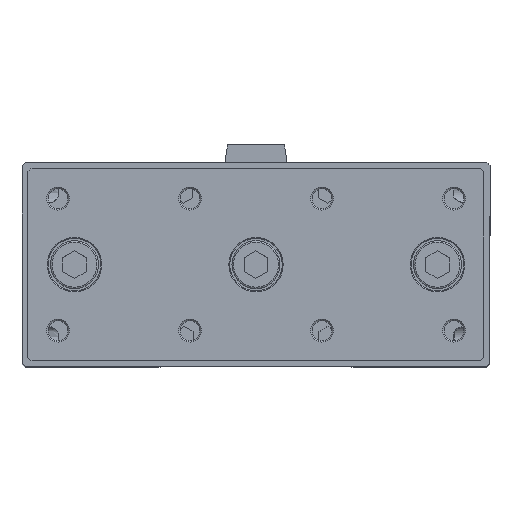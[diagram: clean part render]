
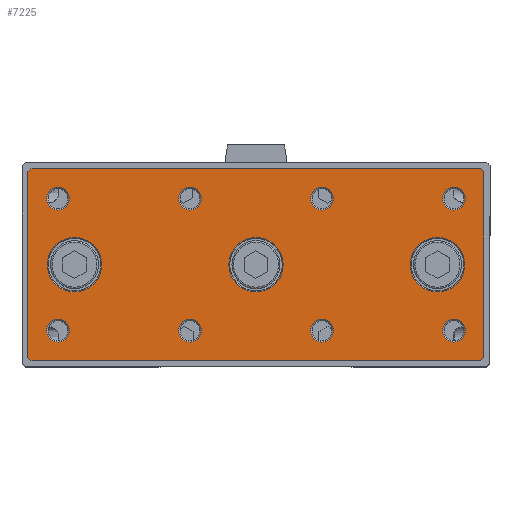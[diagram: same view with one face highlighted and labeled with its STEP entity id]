
A CAD part, top view. The second image highlights one B-rep face of the part: STEP entity #7225.
In plain terms, the highlighted planar face has unit normal (0, 0, 1).
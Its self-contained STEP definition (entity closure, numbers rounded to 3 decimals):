
#6983=CARTESIAN_POINT('',(-82.057,-30.206,221.6));
#6984=VERTEX_POINT('',#6983);
#6985=CARTESIAN_POINT('',(-83.057,-29.206,221.6));
#6986=VERTEX_POINT('',#6985);
#6987=CARTESIAN_POINT('',(-82.057,-30.206,221.6));
#6988=DIRECTION('',(-0.707,0.707,0.0));
#6989=VECTOR('',#6988,1.414);
#6990=LINE('',#6987,#6989);
#6991=EDGE_CURVE('',#6984,#6986,#6990,.T.);
#7024=CARTESIAN_POINT('',(-83.057,32.794,221.6));
#7025=VERTEX_POINT('',#7024);
#7026=CARTESIAN_POINT('',(-83.057,-29.206,221.6));
#7027=DIRECTION('',(0.0,1.0,0.0));
#7028=VECTOR('',#7027,62.);
#7029=LINE('',#7026,#7028);
#7030=EDGE_CURVE('',#6986,#7025,#7029,.T.);
#7049=CARTESIAN_POINT('',(-7.057,1.794,221.6));
#7050=DIRECTION('',(0.0,0.0,1.0));
#7051=DIRECTION('',(1.0,0.0,0.0));
#7052=AXIS2_PLACEMENT_3D('',#7049,#7050,#7051);
#7053=PLANE('',#7052);
#7054=ORIENTED_EDGE('',*,*,#6991,.F.);
#7055=CARTESIAN_POINT('',(67.943,-30.206,221.6));
#7056=VERTEX_POINT('',#7055);
#7057=CARTESIAN_POINT('',(67.943,-30.206,221.6));
#7058=DIRECTION('',(-1.0,0.0,0.0));
#7059=VECTOR('',#7058,150.0);
#7060=LINE('',#7057,#7059);
#7061=EDGE_CURVE('',#7056,#6984,#7060,.T.);
#7062=ORIENTED_EDGE('',*,*,#7061,.F.);
#7063=CARTESIAN_POINT('',(68.943,-29.206,221.6));
#7064=VERTEX_POINT('',#7063);
#7065=CARTESIAN_POINT('',(68.943,-29.206,221.6));
#7066=DIRECTION('',(-0.707,-0.707,0.0));
#7067=VECTOR('',#7066,1.414);
#7068=LINE('',#7065,#7067);
#7069=EDGE_CURVE('',#7064,#7056,#7068,.T.);
#7070=ORIENTED_EDGE('',*,*,#7069,.F.);
#7071=CARTESIAN_POINT('',(68.943,32.794,221.6));
#7072=VERTEX_POINT('',#7071);
#7073=CARTESIAN_POINT('',(68.943,32.794,221.6));
#7074=DIRECTION('',(0.0,-1.0,0.0));
#7075=VECTOR('',#7074,62.);
#7076=LINE('',#7073,#7075);
#7077=EDGE_CURVE('',#7072,#7064,#7076,.T.);
#7078=ORIENTED_EDGE('',*,*,#7077,.F.);
#7079=CARTESIAN_POINT('',(67.943,33.794,221.6));
#7080=VERTEX_POINT('',#7079);
#7081=CARTESIAN_POINT('',(67.943,33.794,221.6));
#7082=DIRECTION('',(0.707,-0.707,0.0));
#7083=VECTOR('',#7082,1.414);
#7084=LINE('',#7081,#7083);
#7085=EDGE_CURVE('',#7080,#7072,#7084,.T.);
#7086=ORIENTED_EDGE('',*,*,#7085,.F.);
#7087=CARTESIAN_POINT('',(-82.057,33.794,221.6));
#7088=VERTEX_POINT('',#7087);
#7089=CARTESIAN_POINT('',(-82.057,33.794,221.6));
#7090=DIRECTION('',(1.0,0.0,0.0));
#7091=VECTOR('',#7090,150.);
#7092=LINE('',#7089,#7091);
#7093=EDGE_CURVE('',#7088,#7080,#7092,.T.);
#7094=ORIENTED_EDGE('',*,*,#7093,.F.);
#7095=CARTESIAN_POINT('',(-83.057,32.794,221.6));
#7096=DIRECTION('',(0.707,0.707,0.0));
#7097=VECTOR('',#7096,1.414);
#7098=LINE('',#7095,#7097);
#7099=EDGE_CURVE('',#7025,#7088,#7098,.T.);
#7100=ORIENTED_EDGE('',*,*,#7099,.F.);
#7101=ORIENTED_EDGE('',*,*,#7030,.F.);
#7102=EDGE_LOOP('',(#7054,#7062,#7070,#7078,#7086,#7094,#7100,#7101));
#7103=FACE_OUTER_BOUND('',#7102,.T.);
#7104=CARTESIAN_POINT('',(-58.507,1.794,221.6));
#7105=VERTEX_POINT('',#7104);
#7106=CARTESIAN_POINT('',(-67.557,1.794,221.6));
#7107=DIRECTION('',(0.0,0.0,1.0));
#7108=DIRECTION('',(-1.0,0.0,0.0));
#7109=AXIS2_PLACEMENT_3D('',#7106,#7107,#7108);
#7110=CIRCLE('',#7109,9.05);
#7111=EDGE_CURVE('',#7105,#7105,#7110,.T.);
#7112=ORIENTED_EDGE('',*,*,#7111,.F.);
#7113=EDGE_LOOP('',(#7112));
#7114=FACE_BOUND('',#7113,.T.);
#7115=CARTESIAN_POINT('',(62.766,-20.206,221.6));
#7116=VERTEX_POINT('',#7115);
#7117=CARTESIAN_POINT('',(58.943,-20.206,221.6));
#7118=DIRECTION('',(0.0,0.0,1.0));
#7119=DIRECTION('',(-1.0,0.0,0.0));
#7120=AXIS2_PLACEMENT_3D('',#7117,#7118,#7119);
#7121=CIRCLE('',#7120,3.823);
#7122=EDGE_CURVE('',#7116,#7116,#7121,.T.);
#7123=ORIENTED_EDGE('',*,*,#7122,.F.);
#7124=EDGE_LOOP('',(#7123));
#7125=FACE_BOUND('',#7124,.T.);
#7126=CARTESIAN_POINT('',(-69.234,-20.206,221.6));
#7127=VERTEX_POINT('',#7126);
#7128=CARTESIAN_POINT('',(-73.057,-20.206,221.6));
#7129=DIRECTION('',(0.0,0.0,1.0));
#7130=DIRECTION('',(-1.0,0.0,0.0));
#7131=AXIS2_PLACEMENT_3D('',#7128,#7129,#7130);
#7132=CIRCLE('',#7131,3.823);
#7133=EDGE_CURVE('',#7127,#7127,#7132,.T.);
#7134=ORIENTED_EDGE('',*,*,#7133,.F.);
#7135=EDGE_LOOP('',(#7134));
#7136=FACE_BOUND('',#7135,.T.);
#7137=CARTESIAN_POINT('',(62.766,23.794,221.6));
#7138=VERTEX_POINT('',#7137);
#7139=CARTESIAN_POINT('',(58.943,23.794,221.6));
#7140=DIRECTION('',(0.0,0.0,1.0));
#7141=DIRECTION('',(-1.0,0.0,0.0));
#7142=AXIS2_PLACEMENT_3D('',#7139,#7140,#7141);
#7143=CIRCLE('',#7142,3.823);
#7144=EDGE_CURVE('',#7138,#7138,#7143,.T.);
#7145=ORIENTED_EDGE('',*,*,#7144,.F.);
#7146=EDGE_LOOP('',(#7145));
#7147=FACE_BOUND('',#7146,.T.);
#7148=CARTESIAN_POINT('',(-69.234,23.794,221.6));
#7149=VERTEX_POINT('',#7148);
#7150=CARTESIAN_POINT('',(-73.057,23.794,221.6));
#7151=DIRECTION('',(0.0,0.0,1.0));
#7152=DIRECTION('',(-1.0,0.0,0.0));
#7153=AXIS2_PLACEMENT_3D('',#7150,#7151,#7152);
#7154=CIRCLE('',#7153,3.823);
#7155=EDGE_CURVE('',#7149,#7149,#7154,.T.);
#7156=ORIENTED_EDGE('',*,*,#7155,.F.);
#7157=EDGE_LOOP('',(#7156));
#7158=FACE_BOUND('',#7157,.T.);
#7159=CARTESIAN_POINT('',(18.766,-20.206,221.6));
#7160=VERTEX_POINT('',#7159);
#7161=CARTESIAN_POINT('',(14.943,-20.206,221.6));
#7162=DIRECTION('',(0.0,0.0,1.0));
#7163=DIRECTION('',(-1.0,0.0,0.0));
#7164=AXIS2_PLACEMENT_3D('',#7161,#7162,#7163);
#7165=CIRCLE('',#7164,3.824);
#7166=EDGE_CURVE('',#7160,#7160,#7165,.T.);
#7167=ORIENTED_EDGE('',*,*,#7166,.F.);
#7168=EDGE_LOOP('',(#7167));
#7169=FACE_BOUND('',#7168,.T.);
#7170=CARTESIAN_POINT('',(-25.234,-20.206,221.6));
#7171=VERTEX_POINT('',#7170);
#7172=CARTESIAN_POINT('',(-29.057,-20.206,221.6));
#7173=DIRECTION('',(0.0,0.0,1.0));
#7174=DIRECTION('',(-1.0,0.0,0.0));
#7175=AXIS2_PLACEMENT_3D('',#7172,#7173,#7174);
#7176=CIRCLE('',#7175,3.823);
#7177=EDGE_CURVE('',#7171,#7171,#7176,.T.);
#7178=ORIENTED_EDGE('',*,*,#7177,.F.);
#7179=EDGE_LOOP('',(#7178));
#7180=FACE_BOUND('',#7179,.T.);
#7181=CARTESIAN_POINT('',(18.766,23.794,221.6));
#7182=VERTEX_POINT('',#7181);
#7183=CARTESIAN_POINT('',(14.943,23.794,221.6));
#7184=DIRECTION('',(0.0,0.0,1.0));
#7185=DIRECTION('',(-1.0,0.0,0.0));
#7186=AXIS2_PLACEMENT_3D('',#7183,#7184,#7185);
#7187=CIRCLE('',#7186,3.824);
#7188=EDGE_CURVE('',#7182,#7182,#7187,.T.);
#7189=ORIENTED_EDGE('',*,*,#7188,.F.);
#7190=EDGE_LOOP('',(#7189));
#7191=FACE_BOUND('',#7190,.T.);
#7192=CARTESIAN_POINT('',(-25.234,23.794,221.6));
#7193=VERTEX_POINT('',#7192);
#7194=CARTESIAN_POINT('',(-29.057,23.794,221.6));
#7195=DIRECTION('',(0.0,0.0,1.0));
#7196=DIRECTION('',(-1.0,0.0,0.0));
#7197=AXIS2_PLACEMENT_3D('',#7194,#7195,#7196);
#7198=CIRCLE('',#7197,3.823);
#7199=EDGE_CURVE('',#7193,#7193,#7198,.T.);
#7200=ORIENTED_EDGE('',*,*,#7199,.F.);
#7201=EDGE_LOOP('',(#7200));
#7202=FACE_BOUND('',#7201,.T.);
#7203=CARTESIAN_POINT('',(62.493,1.794,221.6));
#7204=VERTEX_POINT('',#7203);
#7205=CARTESIAN_POINT('',(53.443,1.794,221.6));
#7206=DIRECTION('',(0.0,0.0,1.0));
#7207=DIRECTION('',(-1.0,0.0,0.0));
#7208=AXIS2_PLACEMENT_3D('',#7205,#7206,#7207);
#7209=CIRCLE('',#7208,9.05);
#7210=EDGE_CURVE('',#7204,#7204,#7209,.T.);
#7211=ORIENTED_EDGE('',*,*,#7210,.F.);
#7212=EDGE_LOOP('',(#7211));
#7213=FACE_BOUND('',#7212,.T.);
#7214=CARTESIAN_POINT('',(1.993,1.794,221.6));
#7215=VERTEX_POINT('',#7214);
#7216=CARTESIAN_POINT('',(-7.057,1.794,221.6));
#7217=DIRECTION('',(0.0,0.0,1.0));
#7218=DIRECTION('',(-1.0,0.0,0.0));
#7219=AXIS2_PLACEMENT_3D('',#7216,#7217,#7218);
#7220=CIRCLE('',#7219,9.05);
#7221=EDGE_CURVE('',#7215,#7215,#7220,.T.);
#7222=ORIENTED_EDGE('',*,*,#7221,.F.);
#7223=EDGE_LOOP('',(#7222));
#7224=FACE_BOUND('',#7223,.T.);
#7225=ADVANCED_FACE('',(#7103,#7114,#7125,#7136,#7147,#7158,#7169,#7180,#7191,#7202,#7213,#7224),#7053,.T.);
